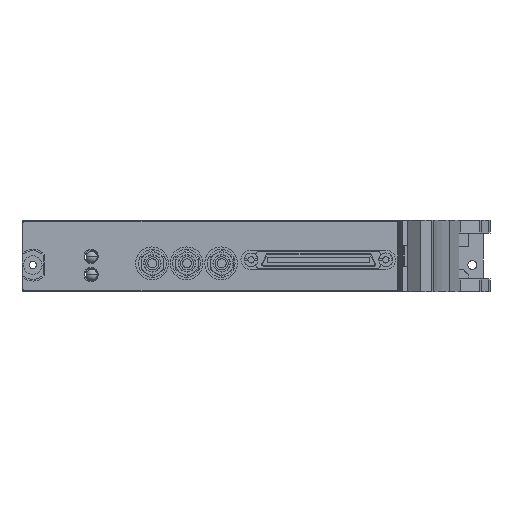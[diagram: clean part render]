
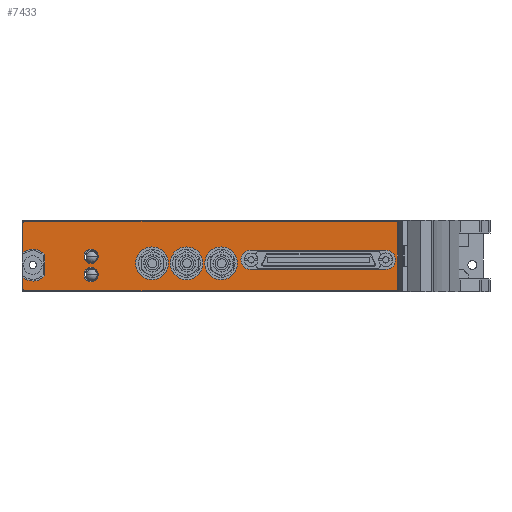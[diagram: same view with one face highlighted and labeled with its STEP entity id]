
A CAD part, left-side view. The second image highlights one B-rep face of the part: STEP entity #7433.
In plain terms, the highlighted planar face has unit normal (-1, 0, 0).
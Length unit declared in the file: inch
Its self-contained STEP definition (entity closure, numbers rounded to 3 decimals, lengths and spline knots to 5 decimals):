
#29=CARTESIAN_POINT('',(-0.215,0.53231,0.665));
#30=DIRECTION('',(-1.,0.,0.));
#31=DIRECTION('',(0.,0.,1.));
#32=AXIS2_PLACEMENT_3D('',#29,#30,#31);
#34=DIRECTION('',(0.,1.,0.));
#35=VECTOR('',#34,4.07);
#36=CARTESIAN_POINT('',(-0.215,-3.53769,0.685));
#37=LINE('',#36,#35);
#38=CARTESIAN_POINT('',(-0.215,-3.53769,0.665));
#39=DIRECTION('',(-1.,0.,0.));
#40=DIRECTION('',(0.,-1.,0.));
#41=AXIS2_PLACEMENT_3D('',#38,#39,#40);
#43=DIRECTION('',(0.,0.,1.));
#44=VECTOR('',#43,0.728);
#45=CARTESIAN_POINT('',(-0.215,-3.55769,-0.063));
#46=LINE('',#45,#44);
#47=CARTESIAN_POINT('',(-0.215,-3.53769,-0.063));
#48=DIRECTION('',(-1.,0.,0.));
#49=DIRECTION('',(0.,0.,-1.));
#50=AXIS2_PLACEMENT_3D('',#47,#48,#49);
#52=DIRECTION('',(0.,-1.,0.));
#53=VECTOR('',#52,4.07);
#54=CARTESIAN_POINT('',(-0.215,0.53231,-0.083));
#55=LINE('',#54,#53);
#56=CARTESIAN_POINT('',(-0.215,0.53231,-0.063));
#57=DIRECTION('',(-1.,0.,0.));
#58=DIRECTION('',(0.,1.,0.));
#59=AXIS2_PLACEMENT_3D('',#56,#57,#58);
#61=DIRECTION('',(0.,0.,-1.));
#62=VECTOR('',#61,0.1263);
#63=CARTESIAN_POINT('',(-0.215,0.55231,0.0633));
#64=LINE('',#63,#62);
#65=CARTESIAN_POINT('',(-0.215,0.44431,0.201));
#66=DIRECTION('',(1.,0.,0.));
#67=DIRECTION('',(0.,-0.76,-0.65));
#68=AXIS2_PLACEMENT_3D('',#65,#66,#67);
#70=DIRECTION('',(0.,0.,-1.));
#71=VECTOR('',#70,0.22747);
#72=CARTESIAN_POINT('',(-0.215,0.31131,0.31474));
#73=LINE('',#72,#71);
#74=CARTESIAN_POINT('',(-0.215,0.44431,0.201));
#75=DIRECTION('',(1.,0.,0.));
#76=DIRECTION('',(0.,0.617,0.787));
#77=AXIS2_PLACEMENT_3D('',#74,#75,#76);
#79=DIRECTION('',(0.,0.,-1.));
#80=VECTOR('',#79,0.3263);
#81=CARTESIAN_POINT('',(-0.215,0.55231,0.665));
#82=LINE('',#81,#80);
#83=DIRECTION('',(0.,1.,0.));
#84=VECTOR('',#83,1.484);
#85=CARTESIAN_POINT('',(-0.215,-3.43082,0.365));
#86=LINE('',#85,#84);
#87=CARTESIAN_POINT('',(-0.215,-1.94682,0.259));
#88=DIRECTION('',(-1.,0.,0.));
#89=DIRECTION('',(0.,0.,1.));
#90=AXIS2_PLACEMENT_3D('',#87,#88,#89);
#92=DIRECTION('',(0.,-1.,0.));
#93=VECTOR('',#92,1.484);
#94=CARTESIAN_POINT('',(-0.215,-1.94682,0.153));
#95=LINE('',#94,#93);
#96=CARTESIAN_POINT('',(-0.215,-3.43082,0.259));
#97=DIRECTION('',(-1.,0.,0.));
#98=DIRECTION('',(0.,0.,-1.));
#99=AXIS2_PLACEMENT_3D('',#96,#97,#98);
#101=CARTESIAN_POINT('',(-0.215,-0.86369,0.22));
#102=DIRECTION('',(-1.,0.,0.));
#103=DIRECTION('',(0.,0.,1.));
#104=AXIS2_PLACEMENT_3D('',#101,#102,#103);
#106=CARTESIAN_POINT('',(-0.215,-0.86369,0.22));
#107=DIRECTION('',(-1.,0.,0.));
#108=DIRECTION('',(0.,0.,-1.));
#109=AXIS2_PLACEMENT_3D('',#106,#107,#108);
#111=CARTESIAN_POINT('',(-0.215,-1.24369,0.22));
#112=DIRECTION('',(-1.,0.,0.));
#113=DIRECTION('',(0.,0.,1.));
#114=AXIS2_PLACEMENT_3D('',#111,#112,#113);
#116=CARTESIAN_POINT('',(-0.215,-1.24369,0.22));
#117=DIRECTION('',(-1.,0.,0.));
#118=DIRECTION('',(0.,0.,-1.));
#119=AXIS2_PLACEMENT_3D('',#116,#117,#118);
#121=CARTESIAN_POINT('',(-0.215,-1.62369,0.22));
#122=DIRECTION('',(-1.,0.,0.));
#123=DIRECTION('',(0.,0.,1.));
#124=AXIS2_PLACEMENT_3D('',#121,#122,#123);
#126=CARTESIAN_POINT('',(-0.215,-1.62369,0.22));
#127=DIRECTION('',(-1.,0.,0.));
#128=DIRECTION('',(0.,0.,-1.));
#129=AXIS2_PLACEMENT_3D('',#126,#127,#128);
#131=CARTESIAN_POINT('',(-0.215,-0.19669,0.297));
#132=DIRECTION('',(-1.,0.,0.));
#133=DIRECTION('',(0.,0.,1.));
#134=AXIS2_PLACEMENT_3D('',#131,#132,#133);
#136=CARTESIAN_POINT('',(-0.215,-0.19669,0.297));
#137=DIRECTION('',(-1.,0.,0.));
#138=DIRECTION('',(0.,0.,-1.));
#139=AXIS2_PLACEMENT_3D('',#136,#137,#138);
#141=CARTESIAN_POINT('',(-0.215,-0.19669,0.097));
#142=DIRECTION('',(-1.,0.,0.));
#143=DIRECTION('',(0.,0.,1.));
#144=AXIS2_PLACEMENT_3D('',#141,#142,#143);
#146=CARTESIAN_POINT('',(-0.215,-0.19669,0.097));
#147=DIRECTION('',(-1.,0.,0.));
#148=DIRECTION('',(0.,0.,-1.));
#149=AXIS2_PLACEMENT_3D('',#146,#147,#148);
#6894=CARTESIAN_POINT('',(-0.215,0.53231,0.685));
#6895=CARTESIAN_POINT('',(-0.215,0.55231,0.665));
#6896=VERTEX_POINT('',#6894);
#6897=VERTEX_POINT('',#6895);
#6898=CARTESIAN_POINT('',(-0.215,0.55231,0.3387));
#6899=VERTEX_POINT('',#6898);
#6900=CARTESIAN_POINT('',(-0.215,0.31131,0.31474));
#6901=VERTEX_POINT('',#6900);
#6902=CARTESIAN_POINT('',(-0.215,0.31131,0.08726));
#6903=VERTEX_POINT('',#6902);
#6904=CARTESIAN_POINT('',(-0.215,0.55231,0.0633));
#6905=VERTEX_POINT('',#6904);
#6906=CARTESIAN_POINT('',(-0.215,0.55231,-0.063));
#6907=VERTEX_POINT('',#6906);
#6908=CARTESIAN_POINT('',(-0.215,0.53231,-0.083));
#6909=VERTEX_POINT('',#6908);
#6910=CARTESIAN_POINT('',(-0.215,-3.53769,-0.083));
#6911=VERTEX_POINT('',#6910);
#6912=CARTESIAN_POINT('',(-0.215,-3.55769,-0.063));
#6913=VERTEX_POINT('',#6912);
#6914=CARTESIAN_POINT('',(-0.215,-3.55769,0.665));
#6915=VERTEX_POINT('',#6914);
#6916=CARTESIAN_POINT('',(-0.215,-3.53769,0.685));
#6917=VERTEX_POINT('',#6916);
#6918=CARTESIAN_POINT('',(-0.215,-3.43082,0.365));
#6919=CARTESIAN_POINT('',(-0.215,-1.94682,0.365));
#6920=VERTEX_POINT('',#6918);
#6921=VERTEX_POINT('',#6919);
#6922=CARTESIAN_POINT('',(-0.215,-1.94682,0.153));
#6923=VERTEX_POINT('',#6922);
#6924=CARTESIAN_POINT('',(-0.215,-3.43082,0.153));
#6925=VERTEX_POINT('',#6924);
#6926=CARTESIAN_POINT('',(-0.215,-0.86369,0.4));
#6927=CARTESIAN_POINT('',(-0.215,-0.86369,0.04));
#6928=VERTEX_POINT('',#6926);
#6929=VERTEX_POINT('',#6927);
#6930=CARTESIAN_POINT('',(-0.215,-1.24369,0.4));
#6931=CARTESIAN_POINT('',(-0.215,-1.24369,0.04));
#6932=VERTEX_POINT('',#6930);
#6933=VERTEX_POINT('',#6931);
#6934=CARTESIAN_POINT('',(-0.215,-1.62369,0.4));
#6935=CARTESIAN_POINT('',(-0.215,-1.62369,0.04));
#6936=VERTEX_POINT('',#6934);
#6937=VERTEX_POINT('',#6935);
#6938=CARTESIAN_POINT('',(-0.215,-0.19669,0.3755));
#6939=CARTESIAN_POINT('',(-0.215,-0.19669,0.2185));
#6940=VERTEX_POINT('',#6938);
#6941=VERTEX_POINT('',#6939);
#6942=CARTESIAN_POINT('',(-0.215,-0.19669,0.1755));
#6943=CARTESIAN_POINT('',(-0.215,-0.19669,0.0185));
#6944=VERTEX_POINT('',#6942);
#6945=VERTEX_POINT('',#6943);
#7364=CARTESIAN_POINT('',(-0.215,0.44431,0.201));
#7365=DIRECTION('',(-1.,0.,0.));
#7366=DIRECTION('',(0.,0.,1.));
#7367=AXIS2_PLACEMENT_3D('',#7364,#7365,#7366);
#7368=PLANE('',#7367);
#7370=ORIENTED_EDGE('',*,*,#7369,.F.);
#7372=ORIENTED_EDGE('',*,*,#7371,.F.);
#7374=ORIENTED_EDGE('',*,*,#7373,.F.);
#7376=ORIENTED_EDGE('',*,*,#7375,.F.);
#7378=ORIENTED_EDGE('',*,*,#7377,.F.);
#7380=ORIENTED_EDGE('',*,*,#7379,.F.);
#7382=ORIENTED_EDGE('',*,*,#7381,.F.);
#7384=ORIENTED_EDGE('',*,*,#7383,.F.);
#7386=ORIENTED_EDGE('',*,*,#7385,.F.);
#7388=ORIENTED_EDGE('',*,*,#7387,.F.);
#7390=ORIENTED_EDGE('',*,*,#7389,.F.);
#7392=ORIENTED_EDGE('',*,*,#7391,.F.);
#7393=EDGE_LOOP('',(#7370,#7372,#7374,#7376,#7378,#7380,#7382,#7384,#7386,#7388,
#7390,#7392));
#7394=FACE_OUTER_BOUND('',#7393,.F.);
#7396=ORIENTED_EDGE('',*,*,#7395,.T.);
#7398=ORIENTED_EDGE('',*,*,#7397,.T.);
#7400=ORIENTED_EDGE('',*,*,#7399,.T.);
#7402=ORIENTED_EDGE('',*,*,#7401,.T.);
#7403=EDGE_LOOP('',(#7396,#7398,#7400,#7402));
#7404=FACE_BOUND('',#7403,.F.);
#7406=ORIENTED_EDGE('',*,*,#7405,.T.);
#7408=ORIENTED_EDGE('',*,*,#7407,.T.);
#7409=EDGE_LOOP('',(#7406,#7408));
#7410=FACE_BOUND('',#7409,.F.);
#7411=ORIENTED_EDGE('',*,*,#7358,.T.);
#7412=ORIENTED_EDGE('',*,*,#7327,.T.);
#7413=EDGE_LOOP('',(#7411,#7412));
#7414=FACE_BOUND('',#7413,.F.);
#7416=ORIENTED_EDGE('',*,*,#7415,.T.);
#7418=ORIENTED_EDGE('',*,*,#7417,.T.);
#7419=EDGE_LOOP('',(#7416,#7418));
#7420=FACE_BOUND('',#7419,.F.);
#7422=ORIENTED_EDGE('',*,*,#7421,.T.);
#7424=ORIENTED_EDGE('',*,*,#7423,.T.);
#7425=EDGE_LOOP('',(#7422,#7424));
#7426=FACE_BOUND('',#7425,.F.);
#7428=ORIENTED_EDGE('',*,*,#7427,.T.);
#7430=ORIENTED_EDGE('',*,*,#7429,.T.);
#7431=EDGE_LOOP('',(#7428,#7430));
#7432=FACE_BOUND('',#7431,.F.);
#7433=ADVANCED_FACE('',(#7394,#7404,#7410,#7414,#7420,#7426,#7432),#7368,.T.);
#33=CIRCLE('',#32,0.02);
#42=CIRCLE('',#41,0.02);
#51=CIRCLE('',#50,0.02);
#60=CIRCLE('',#59,0.02);
#69=CIRCLE('',#68,0.175);
#78=CIRCLE('',#77,0.175);
#91=CIRCLE('',#90,0.106);
#100=CIRCLE('',#99,0.106);
#105=CIRCLE('',#104,0.18);
#110=CIRCLE('',#109,0.18);
#115=CIRCLE('',#114,0.18);
#120=CIRCLE('',#119,0.18);
#125=CIRCLE('',#124,0.18);
#130=CIRCLE('',#129,0.18);
#135=CIRCLE('',#134,0.0785);
#140=CIRCLE('',#139,0.0785);
#145=CIRCLE('',#144,0.0785);
#150=CIRCLE('',#149,0.0785);
#7327=EDGE_CURVE('',#6933,#6932,#120,.T.);
#7358=EDGE_CURVE('',#6932,#6933,#115,.T.);
#7369=EDGE_CURVE('',#6896,#6897,#33,.T.);
#7371=EDGE_CURVE('',#6917,#6896,#37,.T.);
#7373=EDGE_CURVE('',#6915,#6917,#42,.T.);
#7375=EDGE_CURVE('',#6913,#6915,#46,.T.);
#7377=EDGE_CURVE('',#6911,#6913,#51,.T.);
#7379=EDGE_CURVE('',#6909,#6911,#55,.T.);
#7381=EDGE_CURVE('',#6907,#6909,#60,.T.);
#7383=EDGE_CURVE('',#6905,#6907,#64,.T.);
#7385=EDGE_CURVE('',#6903,#6905,#69,.T.);
#7387=EDGE_CURVE('',#6901,#6903,#73,.T.);
#7389=EDGE_CURVE('',#6899,#6901,#78,.T.);
#7391=EDGE_CURVE('',#6897,#6899,#82,.T.);
#7395=EDGE_CURVE('',#6920,#6921,#86,.T.);
#7397=EDGE_CURVE('',#6921,#6923,#91,.T.);
#7399=EDGE_CURVE('',#6923,#6925,#95,.T.);
#7401=EDGE_CURVE('',#6925,#6920,#100,.T.);
#7405=EDGE_CURVE('',#6928,#6929,#105,.T.);
#7407=EDGE_CURVE('',#6929,#6928,#110,.T.);
#7415=EDGE_CURVE('',#6936,#6937,#125,.T.);
#7417=EDGE_CURVE('',#6937,#6936,#130,.T.);
#7421=EDGE_CURVE('',#6940,#6941,#135,.T.);
#7423=EDGE_CURVE('',#6941,#6940,#140,.T.);
#7427=EDGE_CURVE('',#6944,#6945,#145,.T.);
#7429=EDGE_CURVE('',#6945,#6944,#150,.T.);
